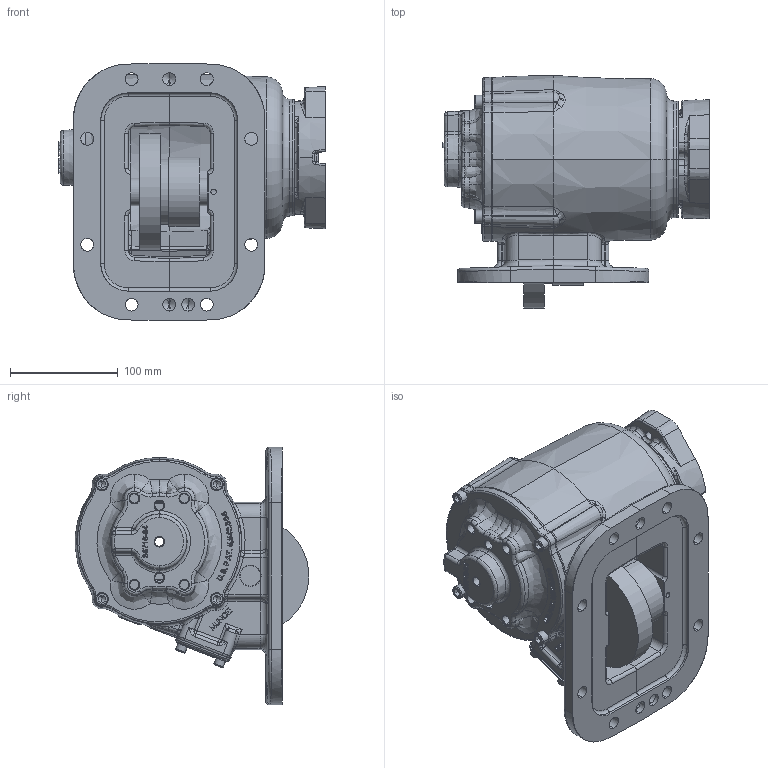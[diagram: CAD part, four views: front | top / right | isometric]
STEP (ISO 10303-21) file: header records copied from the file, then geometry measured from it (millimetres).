
FILE_DESCRIPTION (( 'STEP AP203' ), '1' );
FILE_NAME ('CS8S-XXXXX-X3QX.STEP', '2012-06-11T15:07:36', ( '' ), ( '' ), 'SwSTEP 2.0', 'SolidWorks 2012', '' );
FILE_SCHEMA (( 'CONFIG_CONTROL_DESIGN' ));
Products named in the file (3): CS8S-XXXXX-X3QX; 14T39141; CS8S-XXXXX-X3XX
Assembly tree (2 placements, depth 2):
  CS8S-XXXXX-X3QX
    CS8S-XXXXX-X3XX
    14T39141
Bounding box: 247.66 x 216.55 x 239.61 mm (x, y, z)
Volume: 1842858.9 mm3; surface area: 429843.7 mm2
Topology: 3 solids, 14 shells, 2131 faces, 5397 edges, 3332 vertices
Faces by surface type: bspline 803, plane 610, cylinder 424, cone 208, torus 78, sphere 8
Entity records: 109125 total; most frequent: CARTESIAN_POINT 63616, ORIENTED_EDGE 10636, DIRECTION 7407, EDGE_CURVE 5318, VERTEX_POINT 3332, AXIS2_PLACEMENT_3D 2602, EDGE_LOOP 2330, LINE 2203
